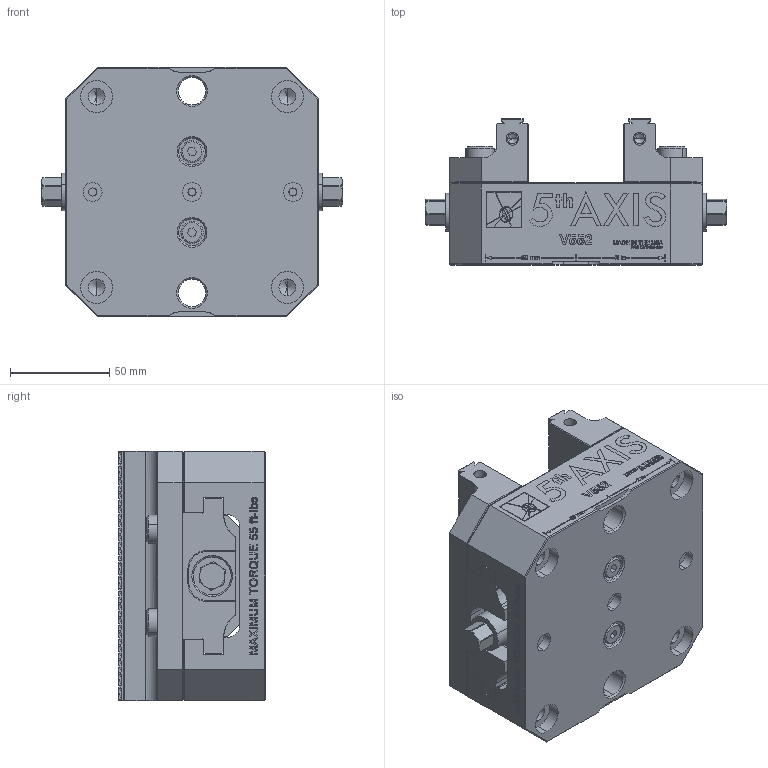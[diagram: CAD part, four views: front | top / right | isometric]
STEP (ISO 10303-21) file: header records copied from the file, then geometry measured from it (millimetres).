
FILE_DESCRIPTION (( 'STEP AP214' ), '1' );
FILE_NAME ('V552.STEP', '2019-05-06T16:11:59', ( '' ), ( '' ), 'SwSTEP 2.0', 'SolidWorks 2018', '' );
FILE_SCHEMA (( 'AUTOMOTIVE_DESIGN' ));
Length unit declared in the file: inch
Products named in the file (13): #10-32; SB5V; V562-2R_Final Right; LP250_NO THREADS ; 72158_91251A624; V562-5_FINISHED PART ; V562-2L_Final Left; Cup Point Set Screw_DEFAULT; V562-6_V56124-6; V562-4_V56124-4; V562M-3_V562M-3; V552-1_V552-1; V552
Assembly tree (23 placements, depth 2):
  V552
    V552-1_V552-1
    V562M-3_V562M-3
    V562-4_V56124-4
    V562-6_V56124-6  x2
    Cup Point Set Screw_DEFAULT
    V562-2L_Final Left
    V562-5_FINISHED PART   x2
    72158_91251A624  x4
    LP250_NO THREADS   x4
    V562-2R_Final Right
    SB5V  x2
    #10-32  x3
Bounding box: 151.64 x 73.65 x 125.73 mm (x, y, z)
Volume: 697165.3 mm3; surface area: 163374.4 mm2
Topology: 23 solids, 23 shells, 3612 faces, 9655 edges, 6319 vertices
Faces by surface type: plane 1769, cylinder 893, bspline 669, cone 261, torus 20
Entity records: 140271 total; most frequent: CARTESIAN_POINT 51816, ORIENTED_EDGE 14832, DIRECTION 10757, EDGE_CURVE 7416, VECTOR 4967, LINE 4967, VERTEX_POINT 4887, EDGE_LOOP 3071
